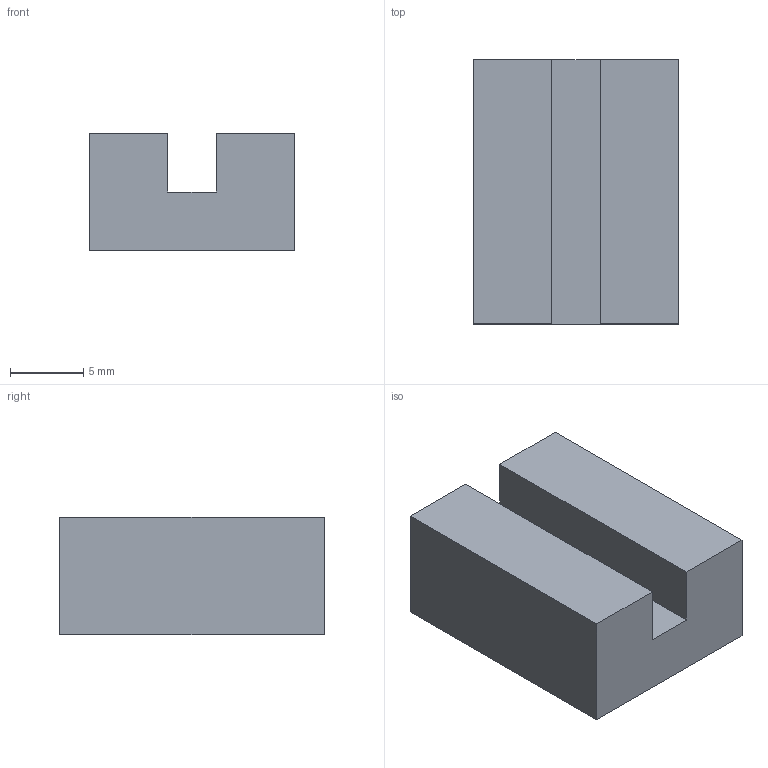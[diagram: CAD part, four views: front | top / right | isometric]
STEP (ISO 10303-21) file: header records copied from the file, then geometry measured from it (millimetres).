
FILE_DESCRIPTION(('Open CASCADE Model'),'2;1');
FILE_NAME('Open CASCADE Shape Model','2026-09-11T00:16:40',('Author'),( 'Open CASCADE'),'Open CASCADE STEP processor 7.9','Open CASCADE 7.9' ,'Unknown');
FILE_SCHEMA(('AUTOMOTIVE_DESIGN { 1 0 10303 214 1 1 1 1 }'));
Length unit declared in the file: millimetre
Products named in the file (1): Open CASCADE STEP translator 7.9 14
Bounding box: 14 x 18 x 8 mm (x, y, z)
Volume: 1778.4 mm3; surface area: 1133.6 mm2
Topology: 1 solids, 1 shells, 10 faces, 24 edges, 16 vertices
Faces by surface type: plane 10
Entity records: 594 total; most frequent: CARTESIAN_POINT 115, DIRECTION 78, LINE 56, VECTOR 56, ORIENTED_EDGE 48, PCURVE 48, DEFINITIONAL_REPRESENTATION 48, EDGE_CURVE 24
